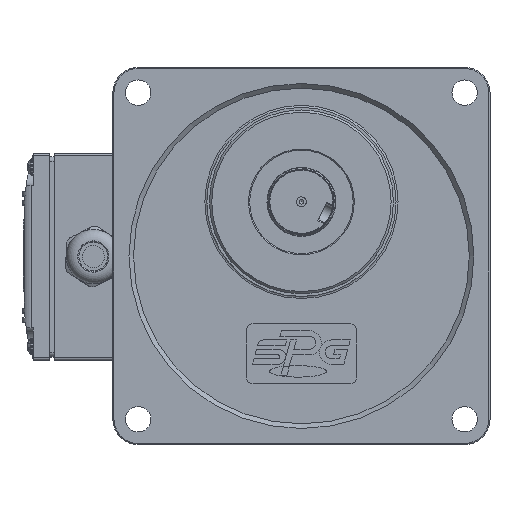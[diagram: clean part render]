
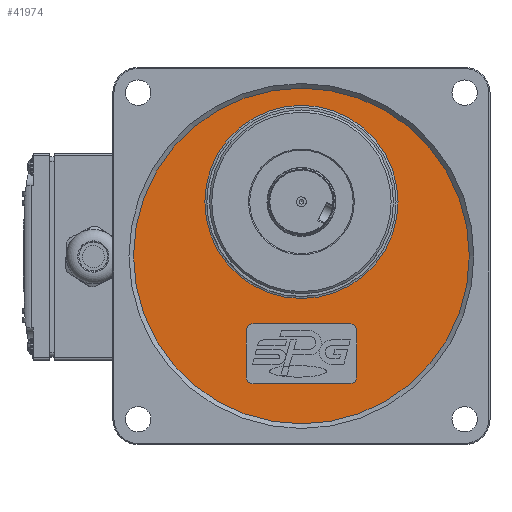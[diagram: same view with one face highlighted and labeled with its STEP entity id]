
A CAD part, top view. The second image highlights one B-rep face of the part: STEP entity #41974.
In plain terms, the highlighted planar face has unit normal (0, 0, 1).
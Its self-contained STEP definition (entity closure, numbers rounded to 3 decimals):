
#3534=FACE_BOUND('',#8735,.T.);
#3535=FACE_BOUND('',#8736,.T.);
#4394=PLANE('',#45980);
#6166=FACE_OUTER_BOUND('',#8734,.T.);
#8734=EDGE_LOOP('',(#35090));
#8735=EDGE_LOOP('',(#35091,#35092,#35093,#35094,#35095,#35096,#35097,#35098));
#8736=EDGE_LOOP('',(#35099));
#11721=LINE('',#70678,#14464);
#11725=LINE('',#70690,#14468);
#11760=LINE('',#70809,#14503);
#11853=LINE('',#71041,#14596);
#14464=VECTOR('',#55380,42.);
#14468=VECTOR('',#55392,20.);
#14503=VECTOR('',#55483,42.);
#14596=VECTOR('',#55742,20.);
#16799=CIRCLE('',#45863,3.);
#16801=CIRCLE('',#45867,3.);
#16803=CIRCLE('',#45871,3.);
#16827=CIRCLE('',#45898,3.);
#16852=CIRCLE('',#45981,73.);
#16853=CIRCLE('',#45982,42.);
#20260=VERTEX_POINT('',#70668);
#20261=VERTEX_POINT('',#70670);
#20263=VERTEX_POINT('',#70676);
#20265=VERTEX_POINT('',#70682);
#20267=VERTEX_POINT('',#70688);
#20270=VERTEX_POINT('',#70695);
#20271=VERTEX_POINT('',#70697);
#20323=VERTEX_POINT('',#70808);
#20380=VERTEX_POINT('',#71043);
#20381=VERTEX_POINT('',#71045);
#25344=EDGE_CURVE('',#20260,#20261,#16799,.T.);
#25348=EDGE_CURVE('',#20260,#20263,#11721,.T.);
#25351=EDGE_CURVE('',#20265,#20263,#16801,.T.);
#25354=EDGE_CURVE('',#20265,#20267,#11725,.T.);
#25357=EDGE_CURVE('',#20270,#20271,#16803,.T.);
#25414=EDGE_CURVE('',#20323,#20271,#11760,.T.);
#25416=EDGE_CURVE('',#20323,#20267,#16827,.T.);
#25532=EDGE_CURVE('',#20270,#20261,#11853,.T.);
#25533=EDGE_CURVE('',#20380,#20380,#16852,.T.);
#25534=EDGE_CURVE('',#20381,#20381,#16853,.T.);
#35090=ORIENTED_EDGE('',*,*,#25533,.T.);
#35091=ORIENTED_EDGE('',*,*,#25354,.T.);
#35092=ORIENTED_EDGE('',*,*,#25416,.F.);
#35093=ORIENTED_EDGE('',*,*,#25414,.T.);
#35094=ORIENTED_EDGE('',*,*,#25357,.F.);
#35095=ORIENTED_EDGE('',*,*,#25532,.T.);
#35096=ORIENTED_EDGE('',*,*,#25344,.F.);
#35097=ORIENTED_EDGE('',*,*,#25348,.T.);
#35098=ORIENTED_EDGE('',*,*,#25351,.F.);
#35099=ORIENTED_EDGE('',*,*,#25534,.F.);
#41974=ADVANCED_FACE('',(#6166,#3534,#3535),#4394,.F.);
#45863=AXIS2_PLACEMENT_3D('',#70671,#55373,#55374);
#45867=AXIS2_PLACEMENT_3D('',#70684,#55386,#55387);
#45871=AXIS2_PLACEMENT_3D('',#70698,#55398,#55399);
#45898=AXIS2_PLACEMENT_3D('',#70812,#55487,#55488);
#45980=AXIS2_PLACEMENT_3D('',#71042,#55743,#55744);
#45981=AXIS2_PLACEMENT_3D('',#71044,#55745,#55746);
#45982=AXIS2_PLACEMENT_3D('',#71046,#55747,#55748);
#55373=DIRECTION('center_axis',(0.,0.,1.));
#55374=DIRECTION('ref_axis',(0.707,-0.707,0.));
#55380=DIRECTION('',(-1.,0.,0.));
#55386=DIRECTION('center_axis',(0.,0.,1.));
#55387=DIRECTION('ref_axis',(-0.707,-0.707,0.));
#55392=DIRECTION('',(0.,1.,0.));
#55398=DIRECTION('center_axis',(0.,0.,1.));
#55399=DIRECTION('ref_axis',(0.707,0.707,0.));
#55483=DIRECTION('',(1.,0.,0.));
#55487=DIRECTION('center_axis',(0.,0.,1.));
#55488=DIRECTION('ref_axis',(-0.707,0.707,0.));
#55742=DIRECTION('',(0.,-1.,0.));
#55743=DIRECTION('center_axis',(0.,0.,-1.));
#55744=DIRECTION('ref_axis',(-1.,0.,0.));
#55745=DIRECTION('center_axis',(0.,0.,1.));
#55746=DIRECTION('ref_axis',(-1.,0.,0.));
#55747=DIRECTION('center_axis',(0.,0.,1.));
#55748=DIRECTION('ref_axis',(-1.,0.,0.));
#70668=CARTESIAN_POINT('',(21.,-55.5,89.));
#70670=CARTESIAN_POINT('',(24.,-52.5,89.));
#70671=CARTESIAN_POINT('Origin',(21.,-52.5,89.));
#70676=CARTESIAN_POINT('',(-21.,-55.5,89.));
#70678=CARTESIAN_POINT('',(21.,-55.5,89.));
#70682=CARTESIAN_POINT('',(-24.,-52.5,89.));
#70684=CARTESIAN_POINT('Origin',(-21.,-52.5,89.));
#70688=CARTESIAN_POINT('',(-24.,-32.5,89.));
#70690=CARTESIAN_POINT('',(-24.,-52.5,89.));
#70695=CARTESIAN_POINT('',(24.,-32.5,89.));
#70697=CARTESIAN_POINT('',(21.,-29.5,89.));
#70698=CARTESIAN_POINT('Origin',(21.,-32.5,89.));
#70808=CARTESIAN_POINT('',(-21.,-29.5,89.));
#70809=CARTESIAN_POINT('',(-21.,-29.5,89.));
#70812=CARTESIAN_POINT('Origin',(-21.,-32.5,89.));
#71041=CARTESIAN_POINT('',(24.,-32.5,89.));
#71042=CARTESIAN_POINT('Origin',(0.,0.,89.));
#71043=CARTESIAN_POINT('',(73.,0.,89.));
#71044=CARTESIAN_POINT('Origin',(0.,0.,89.));
#71045=CARTESIAN_POINT('',(-42.,23.5,89.));
#71046=CARTESIAN_POINT('Origin',(0.,23.5,89.));
